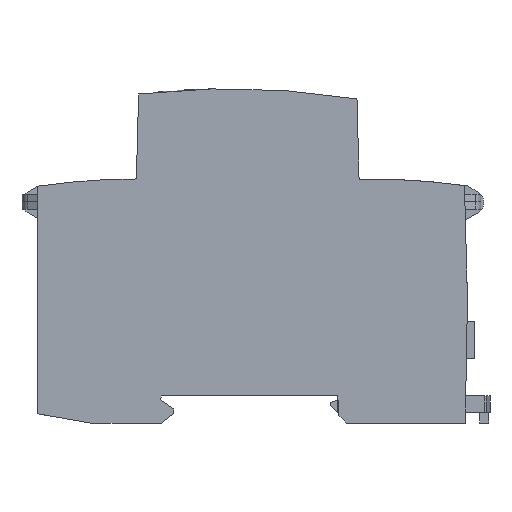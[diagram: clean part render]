
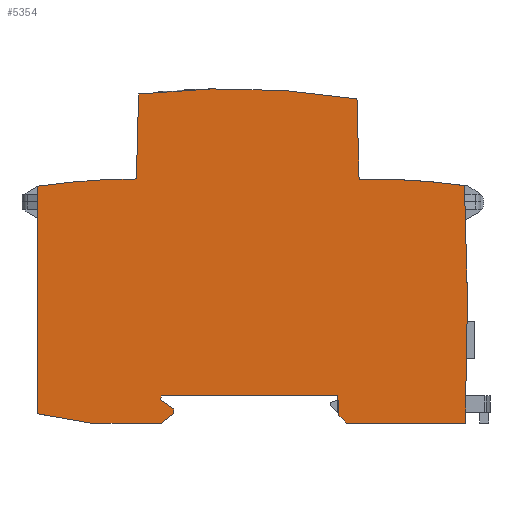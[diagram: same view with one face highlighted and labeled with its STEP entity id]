
A CAD part, left-side view. The second image highlights one B-rep face of the part: STEP entity #5354.
In plain terms, the highlighted planar face has unit normal (-1, 0, 0).
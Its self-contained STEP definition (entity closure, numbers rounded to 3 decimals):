
#61=DIRECTION('',(0.,1.,0.));
#62=VECTOR('',#61,23.975);
#63=CARTESIAN_POINT('',(0.,4.037,0.));
#64=LINE('',#63,#62);
#65=DIRECTION('',(0.,0.725,0.688));
#66=VECTOR('',#65,2.176);
#67=CARTESIAN_POINT('',(0.,28.012,0.));
#68=LINE('',#67,#66);
#69=DIRECTION('',(0.,0.052,0.999));
#70=VECTOR('',#69,4.008);
#71=CARTESIAN_POINT('',(0.,29.59,1.498));
#72=LINE('',#71,#70);
#73=DIRECTION('',(0.,0.052,-0.999));
#74=VECTOR('',#73,0.773);
#75=CARTESIAN_POINT('',(0.,65.5,5.5));
#76=LINE('',#75,#74);
#77=DIRECTION('',(0.,-0.819,-0.574));
#78=VECTOR('',#77,3.225);
#79=CARTESIAN_POINT('',(0.,65.54,4.728));
#80=LINE('',#79,#78);
#81=DIRECTION('',(0.,0.052,-0.999));
#82=VECTOR('',#81,0.915);
#83=CARTESIAN_POINT('',(0.,62.9,2.876));
#84=LINE('',#83,#82);
#85=DIRECTION('',(0.,0.793,-0.61));
#86=VECTOR('',#85,3.22);
#87=CARTESIAN_POINT('',(0.,62.948,1.963));
#88=LINE('',#87,#86);
#89=DIRECTION('',(0.,1.,0.));
#90=VECTOR('',#89,14.181);
#91=CARTESIAN_POINT('',(0.,65.5,0.));
#92=LINE('',#91,#90);
#93=DIRECTION('',(0.,0.985,0.174));
#94=VECTOR('',#93,10.884);
#95=CARTESIAN_POINT('',(0.,79.681,0.));
#96=LINE('',#95,#94);
#97=CARTESIAN_POINT('',(0.,70.434,-87.195));
#98=DIRECTION('',(1.,0.,0.));
#99=DIRECTION('',(0.,0.146,0.989));
#100=AXIS2_PLACEMENT_3D('',#97,#98,#99);
#102=DIRECTION('',(0.,-0.026,1.));
#103=VECTOR('',#102,17.175);
#104=CARTESIAN_POINT('',(0.,70.5,49.34));
#105=LINE('',#104,#103);
#106=DIRECTION('',(0.,-0.026,-1.));
#107=VECTOR('',#106,16.209);
#108=CARTESIAN_POINT('',(0.,25.924,65.525));
#109=LINE('',#108,#107);
#110=CARTESIAN_POINT('',(0.,23.267,-87.16));
#111=DIRECTION('',(1.,0.,0.));
#112=DIRECTION('',(0.,0.016,1.));
#113=AXIS2_PLACEMENT_3D('',#110,#111,#112);
#115=DIRECTION('',(0.,-0.026,-1.));
#116=VECTOR('',#115,22.96);
#117=CARTESIAN_POINT('',(0.,4.201,48.002));
#118=LINE('',#117,#116);
#251=DIRECTION('',(0.,-0.017,1.));
#252=VECTOR('',#251,25.054);
#253=CARTESIAN_POINT('',(0.,4.037,0.));
#254=LINE('',#253,#252);
#335=DIRECTION('',(0.,-1.,0.));
#336=VECTOR('',#335,35.7);
#337=CARTESIAN_POINT('',(0.,65.5,5.5));
#338=LINE('',#337,#336);
#1858=DIRECTION('',(0.,0.,-1.));
#1859=VECTOR('',#1858,45.982);
#1860=CARTESIAN_POINT('',(0.,90.4,47.872));
#1861=LINE('',#1860,#1859);
#2553=CARTESIAN_POINT('',(0.,51.519,-92.414));
#2554=DIRECTION('',(-1.,0.,0.));
#2555=DIRECTION('',(0.,-0.16,0.987));
#2556=AXIS2_PLACEMENT_3D('',#2553,#2554,#2555);
#4361=CARTESIAN_POINT('',(0.,4.037,0.));
#4362=CARTESIAN_POINT('',(0.,28.012,0.));
#4363=VERTEX_POINT('',#4361);
#4364=VERTEX_POINT('',#4362);
#4365=CARTESIAN_POINT('',(0.,29.59,1.498));
#4366=VERTEX_POINT('',#4365);
#4367=CARTESIAN_POINT('',(0.,29.8,5.5));
#4368=VERTEX_POINT('',#4367);
#4369=CARTESIAN_POINT('',(0.,65.5,5.5));
#4370=CARTESIAN_POINT('',(0.,65.54,4.728));
#4371=VERTEX_POINT('',#4369);
#4372=VERTEX_POINT('',#4370);
#4373=CARTESIAN_POINT('',(0.,62.9,2.876));
#4374=VERTEX_POINT('',#4373);
#4375=CARTESIAN_POINT('',(0.,62.948,1.963));
#4376=VERTEX_POINT('',#4375);
#4377=CARTESIAN_POINT('',(0.,65.5,0.));
#4378=VERTEX_POINT('',#4377);
#4379=CARTESIAN_POINT('',(0.,79.681,0.));
#4380=VERTEX_POINT('',#4379);
#4381=CARTESIAN_POINT('',(0.,90.4,1.89));
#4382=VERTEX_POINT('',#4381);
#4383=CARTESIAN_POINT('',(0.,90.4,47.872));
#4384=CARTESIAN_POINT('',(0.,70.5,49.34));
#4385=VERTEX_POINT('',#4383);
#4386=VERTEX_POINT('',#4384);
#4387=CARTESIAN_POINT('',(0.,70.05,66.509));
#4388=VERTEX_POINT('',#4387);
#4389=CARTESIAN_POINT('',(0.,25.924,65.525));
#4390=CARTESIAN_POINT('',(0.,25.5,49.322));
#4391=VERTEX_POINT('',#4389);
#4392=VERTEX_POINT('',#4390);
#4393=CARTESIAN_POINT('',(0.,4.201,48.002));
#4394=VERTEX_POINT('',#4393);
#4395=CARTESIAN_POINT('',(0.,3.6,25.05));
#4396=VERTEX_POINT('',#4395);
#5311=CARTESIAN_POINT('',(0.,0.,0.));
#5312=DIRECTION('',(1.,0.,0.));
#5313=DIRECTION('',(0.,1.,0.));
#5314=AXIS2_PLACEMENT_3D('',#5311,#5312,#5313);
#5315=PLANE('',#5314);
#5317=ORIENTED_EDGE('',*,*,#5316,.T.);
#5319=ORIENTED_EDGE('',*,*,#5318,.T.);
#5321=ORIENTED_EDGE('',*,*,#5320,.T.);
#5323=ORIENTED_EDGE('',*,*,#5322,.F.);
#5325=ORIENTED_EDGE('',*,*,#5324,.T.);
#5327=ORIENTED_EDGE('',*,*,#5326,.T.);
#5329=ORIENTED_EDGE('',*,*,#5328,.T.);
#5331=ORIENTED_EDGE('',*,*,#5330,.T.);
#5333=ORIENTED_EDGE('',*,*,#5332,.T.);
#5335=ORIENTED_EDGE('',*,*,#5334,.T.);
#5337=ORIENTED_EDGE('',*,*,#5336,.F.);
#5339=ORIENTED_EDGE('',*,*,#5338,.T.);
#5341=ORIENTED_EDGE('',*,*,#5340,.T.);
#5343=ORIENTED_EDGE('',*,*,#5342,.F.);
#5345=ORIENTED_EDGE('',*,*,#5344,.T.);
#5347=ORIENTED_EDGE('',*,*,#5346,.T.);
#5349=ORIENTED_EDGE('',*,*,#5348,.T.);
#5351=ORIENTED_EDGE('',*,*,#5350,.F.);
#5352=EDGE_LOOP('',(#5317,#5319,#5321,#5323,#5325,#5327,#5329,#5331,#5333,#5335,
#5337,#5339,#5341,#5343,#5345,#5347,#5349,#5351));
#5353=FACE_OUTER_BOUND('',#5352,.F.);
#101=CIRCLE('',#100,136.535);
#114=CIRCLE('',#113,136.5);
#2557=CIRCLE('',#2556,160.);
#5316=EDGE_CURVE('',#4363,#4364,#64,.T.);
#5318=EDGE_CURVE('',#4364,#4366,#68,.T.);
#5320=EDGE_CURVE('',#4366,#4368,#72,.T.);
#5322=EDGE_CURVE('',#4371,#4368,#338,.T.);
#5324=EDGE_CURVE('',#4371,#4372,#76,.T.);
#5326=EDGE_CURVE('',#4372,#4374,#80,.T.);
#5328=EDGE_CURVE('',#4374,#4376,#84,.T.);
#5330=EDGE_CURVE('',#4376,#4378,#88,.T.);
#5332=EDGE_CURVE('',#4378,#4380,#92,.T.);
#5334=EDGE_CURVE('',#4380,#4382,#96,.T.);
#5336=EDGE_CURVE('',#4385,#4382,#1861,.T.);
#5338=EDGE_CURVE('',#4385,#4386,#101,.T.);
#5340=EDGE_CURVE('',#4386,#4388,#105,.T.);
#5342=EDGE_CURVE('',#4391,#4388,#2557,.T.);
#5344=EDGE_CURVE('',#4391,#4392,#109,.T.);
#5346=EDGE_CURVE('',#4392,#4394,#114,.T.);
#5348=EDGE_CURVE('',#4394,#4396,#118,.T.);
#5350=EDGE_CURVE('',#4363,#4396,#254,.T.);
#5354=ADVANCED_FACE('',(#5353),#5315,.F.);
